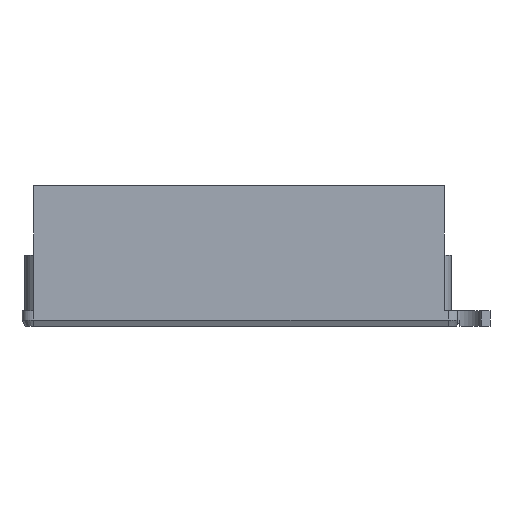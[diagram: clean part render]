
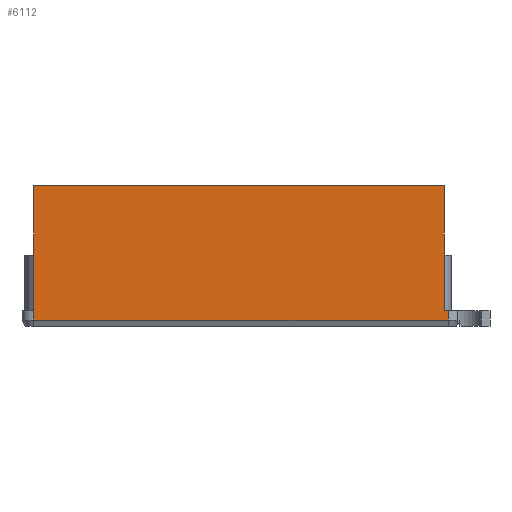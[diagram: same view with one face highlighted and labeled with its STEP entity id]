
A CAD part, front view. The second image highlights one B-rep face of the part: STEP entity #6112.
In plain terms, the highlighted planar face has unit normal (0, -1, 0).
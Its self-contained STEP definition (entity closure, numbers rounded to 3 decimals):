
#466 = VERTEX_POINT('',#467);
#467 = CARTESIAN_POINT('',(13.5,-40.81,25.86));
#482 = CYLINDRICAL_SURFACE('',#483,1.5);
#483 = AXIS2_PLACEMENT_3D('',#484,#485,#486);
#484 = CARTESIAN_POINT('',(13.5,-39.31,23.86));
#485 = DIRECTION('',(0.,0.,1.));
#486 = DIRECTION('',(-1.,-0.,0.));
#510 = PLANE('',#511);
#511 = AXIS2_PLACEMENT_3D('',#512,#513,#514);
#512 = CARTESIAN_POINT('',(13.5,-40.81,25.86));
#513 = DIRECTION('',(-1.,0.,0.));
#514 = DIRECTION('',(0.,1.,0.));
#1917 = VERTEX_POINT('',#1918);
#1918 = CARTESIAN_POINT('',(13.5,-40.81,24.66));
#1945 = EDGE_CURVE('',#1917,#466,#1946,.T.);
#1946 = SURFACE_CURVE('',#1947,(#1951,#1958),.PCURVE_S1.);
#1947 = LINE('',#1948,#1949);
#1948 = CARTESIAN_POINT('',(13.5,-40.81,23.86));
#1949 = VECTOR('',#1950,1.);
#1950 = DIRECTION('',(0.,0.,1.));
#1951 = PCURVE('',#482,#1952);
#1952 = DEFINITIONAL_REPRESENTATION('',(#1953),#1957);
#1953 = LINE('',#1954,#1955);
#1954 = CARTESIAN_POINT('',(1.571,0.));
#1955 = VECTOR('',#1956,1.);
#1956 = DIRECTION('',(0.,1.));
#1957 = ( GEOMETRIC_REPRESENTATION_CONTEXT(2) 
PARAMETRIC_REPRESENTATION_CONTEXT() REPRESENTATION_CONTEXT('2D SPACE',''
  ) );
#1958 = PCURVE('',#1959,#1964);
#1959 = PLANE('',#1960);
#1960 = AXIS2_PLACEMENT_3D('',#1961,#1962,#1963);
#1961 = CARTESIAN_POINT('',(13.5,-40.81,25.86));
#1962 = DIRECTION('',(0.,1.,0.));
#1963 = DIRECTION('',(1.,0.,0.));
#1964 = DEFINITIONAL_REPRESENTATION('',(#1965),#1969);
#1965 = LINE('',#1966,#1967);
#1966 = CARTESIAN_POINT('',(0.,2.));
#1967 = VECTOR('',#1968,1.);
#1968 = DIRECTION('',(0.,-1.));
#1969 = ( GEOMETRIC_REPRESENTATION_CONTEXT(2) 
PARAMETRIC_REPRESENTATION_CONTEXT() REPRESENTATION_CONTEXT('2D SPACE',''
  ) );
#2027 = EDGE_CURVE('',#466,#2028,#2030,.T.);
#2028 = VERTEX_POINT('',#2029);
#2029 = CARTESIAN_POINT('',(13.5,-40.81,41.69));
#2030 = SURFACE_CURVE('',#2031,(#2035,#2042),.PCURVE_S1.);
#2031 = LINE('',#2032,#2033);
#2032 = CARTESIAN_POINT('',(13.5,-40.81,25.86));
#2033 = VECTOR('',#2034,1.);
#2034 = DIRECTION('',(0.,0.,1.));
#2035 = PCURVE('',#510,#2036);
#2036 = DEFINITIONAL_REPRESENTATION('',(#2037),#2041);
#2037 = LINE('',#2038,#2039);
#2038 = CARTESIAN_POINT('',(0.,0.));
#2039 = VECTOR('',#2040,1.);
#2040 = DIRECTION('',(0.,-1.));
#2041 = ( GEOMETRIC_REPRESENTATION_CONTEXT(2) 
PARAMETRIC_REPRESENTATION_CONTEXT() REPRESENTATION_CONTEXT('2D SPACE',''
  ) );
#2042 = PCURVE('',#1959,#2043);
#2043 = DEFINITIONAL_REPRESENTATION('',(#2044),#2048);
#2044 = LINE('',#2045,#2046);
#2045 = CARTESIAN_POINT('',(0.,0.));
#2046 = VECTOR('',#2047,1.);
#2047 = DIRECTION('',(0.,-1.));
#2048 = ( GEOMETRIC_REPRESENTATION_CONTEXT(2) 
PARAMETRIC_REPRESENTATION_CONTEXT() REPRESENTATION_CONTEXT('2D SPACE',''
  ) );
#2066 = PLANE('',#2067);
#2067 = AXIS2_PLACEMENT_3D('',#2068,#2069,#2070);
#2068 = CARTESIAN_POINT('',(39.495,-40.03,41.69));
#2069 = DIRECTION('',(0.,0.,1.));
#2070 = DIRECTION('',(1.,0.,0.));
#2253 = PLANE('',#2254);
#2254 = AXIS2_PLACEMENT_3D('',#2255,#2256,#2257);
#2255 = CARTESIAN_POINT('',(65.489,-40.81,25.86));
#2256 = DIRECTION('',(-1.,0.,0.));
#2257 = DIRECTION('',(0.,1.,0.));
#2532 = PLANE('',#2533);
#2533 = AXIS2_PLACEMENT_3D('',#2534,#2535,#2536);
#2534 = CARTESIAN_POINT('',(69.405,0.,25.86));
#2535 = DIRECTION('',(0.,0.,1.));
#2536 = DIRECTION('',(1.,0.,0.));
#6054 = PLANE('',#6055);
#6055 = AXIS2_PLACEMENT_3D('',#6056,#6057,#6058);
#6056 = CARTESIAN_POINT('',(66.,-40.585,24.26));
#6057 = DIRECTION('',(0.,-0.872,
    -0.49));
#6058 = DIRECTION('',(-1.,0.,0.));
#6112 = ADVANCED_FACE('',(#6113),#1959,.F.);
#6113 = FACE_BOUND('',#6114,.F.);
#6114 = EDGE_LOOP('',(#6115,#6116,#6139,#6162,#6185,#6213,#6234));
#6115 = ORIENTED_EDGE('',*,*,#2027,.T.);
#6116 = ORIENTED_EDGE('',*,*,#6117,.T.);
#6117 = EDGE_CURVE('',#2028,#6118,#6120,.T.);
#6118 = VERTEX_POINT('',#6119);
#6119 = CARTESIAN_POINT('',(65.489,-40.81,41.69));
#6120 = SURFACE_CURVE('',#6121,(#6125,#6132),.PCURVE_S1.);
#6121 = LINE('',#6122,#6123);
#6122 = CARTESIAN_POINT('',(39.495,-40.81,41.69));
#6123 = VECTOR('',#6124,1.);
#6124 = DIRECTION('',(1.,0.,0.));
#6125 = PCURVE('',#1959,#6126);
#6126 = DEFINITIONAL_REPRESENTATION('',(#6127),#6131);
#6127 = LINE('',#6128,#6129);
#6128 = CARTESIAN_POINT('',(25.995,-15.83));
#6129 = VECTOR('',#6130,1.);
#6130 = DIRECTION('',(1.,0.));
#6131 = ( GEOMETRIC_REPRESENTATION_CONTEXT(2) 
PARAMETRIC_REPRESENTATION_CONTEXT() REPRESENTATION_CONTEXT('2D SPACE',''
  ) );
#6132 = PCURVE('',#2066,#6133);
#6133 = DEFINITIONAL_REPRESENTATION('',(#6134),#6138);
#6134 = LINE('',#6135,#6136);
#6135 = CARTESIAN_POINT('',(0.,-0.78));
#6136 = VECTOR('',#6137,1.);
#6137 = DIRECTION('',(1.,0.));
#6138 = ( GEOMETRIC_REPRESENTATION_CONTEXT(2) 
PARAMETRIC_REPRESENTATION_CONTEXT() REPRESENTATION_CONTEXT('2D SPACE',''
  ) );
#6139 = ORIENTED_EDGE('',*,*,#6140,.F.);
#6140 = EDGE_CURVE('',#6141,#6118,#6143,.T.);
#6141 = VERTEX_POINT('',#6142);
#6142 = CARTESIAN_POINT('',(65.489,-40.81,25.86));
#6143 = SURFACE_CURVE('',#6144,(#6148,#6155),.PCURVE_S1.);
#6144 = LINE('',#6145,#6146);
#6145 = CARTESIAN_POINT('',(65.489,-40.81,25.86));
#6146 = VECTOR('',#6147,1.);
#6147 = DIRECTION('',(0.,0.,1.));
#6148 = PCURVE('',#1959,#6149);
#6149 = DEFINITIONAL_REPRESENTATION('',(#6150),#6154);
#6150 = LINE('',#6151,#6152);
#6151 = CARTESIAN_POINT('',(51.989,0.));
#6152 = VECTOR('',#6153,1.);
#6153 = DIRECTION('',(0.,-1.));
#6154 = ( GEOMETRIC_REPRESENTATION_CONTEXT(2) 
PARAMETRIC_REPRESENTATION_CONTEXT() REPRESENTATION_CONTEXT('2D SPACE',''
  ) );
#6155 = PCURVE('',#2253,#6156);
#6156 = DEFINITIONAL_REPRESENTATION('',(#6157),#6161);
#6157 = LINE('',#6158,#6159);
#6158 = CARTESIAN_POINT('',(0.,0.));
#6159 = VECTOR('',#6160,1.);
#6160 = DIRECTION('',(0.,-1.));
#6161 = ( GEOMETRIC_REPRESENTATION_CONTEXT(2) 
PARAMETRIC_REPRESENTATION_CONTEXT() REPRESENTATION_CONTEXT('2D SPACE',''
  ) );
#6162 = ORIENTED_EDGE('',*,*,#6163,.T.);
#6163 = EDGE_CURVE('',#6141,#6164,#6166,.T.);
#6164 = VERTEX_POINT('',#6165);
#6165 = CARTESIAN_POINT('',(66.,-40.81,25.86));
#6166 = SURFACE_CURVE('',#6167,(#6171,#6178),.PCURVE_S1.);
#6167 = LINE('',#6168,#6169);
#6168 = CARTESIAN_POINT('',(12.,-40.81,25.86));
#6169 = VECTOR('',#6170,1.);
#6170 = DIRECTION('',(1.,0.,0.));
#6171 = PCURVE('',#1959,#6172);
#6172 = DEFINITIONAL_REPRESENTATION('',(#6173),#6177);
#6173 = LINE('',#6174,#6175);
#6174 = CARTESIAN_POINT('',(-1.5,0.));
#6175 = VECTOR('',#6176,1.);
#6176 = DIRECTION('',(1.,0.));
#6177 = ( GEOMETRIC_REPRESENTATION_CONTEXT(2) 
PARAMETRIC_REPRESENTATION_CONTEXT() REPRESENTATION_CONTEXT('2D SPACE',''
  ) );
#6178 = PCURVE('',#2532,#6179);
#6179 = DEFINITIONAL_REPRESENTATION('',(#6180),#6184);
#6180 = LINE('',#6181,#6182);
#6181 = CARTESIAN_POINT('',(-57.405,-40.81));
#6182 = VECTOR('',#6183,1.);
#6183 = DIRECTION('',(1.,0.));
#6184 = ( GEOMETRIC_REPRESENTATION_CONTEXT(2) 
PARAMETRIC_REPRESENTATION_CONTEXT() REPRESENTATION_CONTEXT('2D SPACE',''
  ) );
#6185 = ORIENTED_EDGE('',*,*,#6186,.F.);
#6186 = EDGE_CURVE('',#6187,#6164,#6189,.T.);
#6187 = VERTEX_POINT('',#6188);
#6188 = CARTESIAN_POINT('',(66.,-40.81,24.66));
#6189 = SURFACE_CURVE('',#6190,(#6194,#6201),.PCURVE_S1.);
#6190 = LINE('',#6191,#6192);
#6191 = CARTESIAN_POINT('',(66.,-40.81,23.86));
#6192 = VECTOR('',#6193,1.);
#6193 = DIRECTION('',(0.,0.,1.));
#6194 = PCURVE('',#1959,#6195);
#6195 = DEFINITIONAL_REPRESENTATION('',(#6196),#6200);
#6196 = LINE('',#6197,#6198);
#6197 = CARTESIAN_POINT('',(52.5,2.));
#6198 = VECTOR('',#6199,1.);
#6199 = DIRECTION('',(0.,-1.));
#6200 = ( GEOMETRIC_REPRESENTATION_CONTEXT(2) 
PARAMETRIC_REPRESENTATION_CONTEXT() REPRESENTATION_CONTEXT('2D SPACE',''
  ) );
#6201 = PCURVE('',#6202,#6207);
#6202 = CYLINDRICAL_SURFACE('',#6203,1.5);
#6203 = AXIS2_PLACEMENT_3D('',#6204,#6205,#6206);
#6204 = CARTESIAN_POINT('',(66.,-39.31,23.86));
#6205 = DIRECTION('',(0.,0.,1.));
#6206 = DIRECTION('',(1.,0.,-0.));
#6207 = DEFINITIONAL_REPRESENTATION('',(#6208),#6212);
#6208 = LINE('',#6209,#6210);
#6209 = CARTESIAN_POINT('',(-1.571,0.));
#6210 = VECTOR('',#6211,1.);
#6211 = DIRECTION('',(-0.,1.));
#6212 = ( GEOMETRIC_REPRESENTATION_CONTEXT(2) 
PARAMETRIC_REPRESENTATION_CONTEXT() REPRESENTATION_CONTEXT('2D SPACE',''
  ) );
#6213 = ORIENTED_EDGE('',*,*,#6214,.T.);
#6214 = EDGE_CURVE('',#6187,#1917,#6215,.T.);
#6215 = SURFACE_CURVE('',#6216,(#6220,#6227),.PCURVE_S1.);
#6216 = LINE('',#6217,#6218);
#6217 = CARTESIAN_POINT('',(66.,-40.81,24.66));
#6218 = VECTOR('',#6219,1.);
#6219 = DIRECTION('',(-1.,-0.,-0.));
#6220 = PCURVE('',#1959,#6221);
#6221 = DEFINITIONAL_REPRESENTATION('',(#6222),#6226);
#6222 = LINE('',#6223,#6224);
#6223 = CARTESIAN_POINT('',(52.5,1.2));
#6224 = VECTOR('',#6225,1.);
#6225 = DIRECTION('',(-1.,0.));
#6226 = ( GEOMETRIC_REPRESENTATION_CONTEXT(2) 
PARAMETRIC_REPRESENTATION_CONTEXT() REPRESENTATION_CONTEXT('2D SPACE',''
  ) );
#6227 = PCURVE('',#6054,#6228);
#6228 = DEFINITIONAL_REPRESENTATION('',(#6229),#6233);
#6229 = LINE('',#6230,#6231);
#6230 = CARTESIAN_POINT('',(0.,-0.459));
#6231 = VECTOR('',#6232,1.);
#6232 = DIRECTION('',(1.,0.));
#6233 = ( GEOMETRIC_REPRESENTATION_CONTEXT(2) 
PARAMETRIC_REPRESENTATION_CONTEXT() REPRESENTATION_CONTEXT('2D SPACE',''
  ) );
#6234 = ORIENTED_EDGE('',*,*,#1945,.T.);
